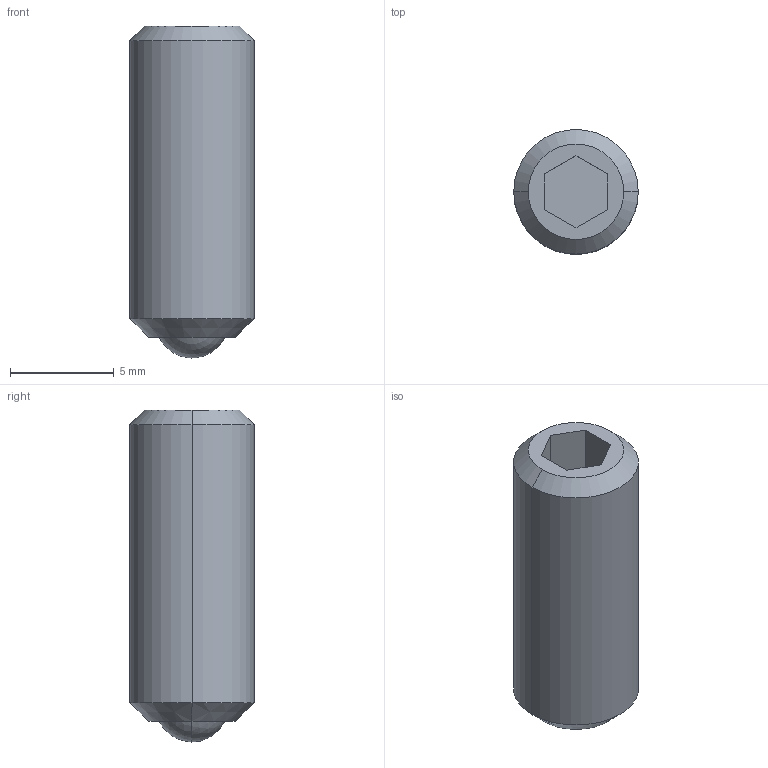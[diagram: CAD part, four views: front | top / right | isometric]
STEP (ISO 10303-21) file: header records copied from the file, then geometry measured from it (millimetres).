
FILE_DESCRIPTION (( 'STEP AP203' ), '1' );
FILE_NAME ('bsuh6a.STEP', '2021-10-25T00:56:10', ( '' ), ( '' ), 'SwSTEP 2.0', 'SolidWorks 2020', '' );
FILE_SCHEMA (( 'CONFIG_CONTROL_DESIGN' ));
Length unit declared in the file: millimetre
Products named in the file (1): bsuh6a
Bounding box: 6 x 6 x 16 mm (x, y, z)
Volume: 394.1 mm3; surface area: 354.3 mm2
Topology: 1 solids, 1 shells, 17 faces, 36 edges, 23 vertices
Faces by surface type: plane 9, cone 4, sphere 2, cylinder 2
Entity records: 535 total; most frequent: DIRECTION 84, CARTESIAN_POINT 77, ORIENTED_EDGE 72, EDGE_CURVE 36, AXIS2_PLACEMENT_3D 30, LINE 24, VECTOR 24, VERTEX_POINT 23
